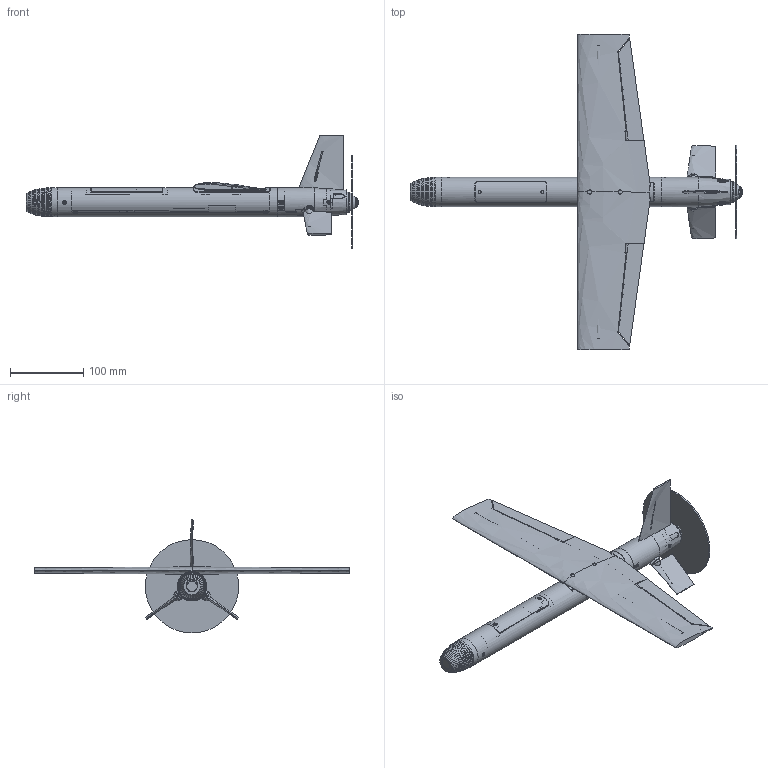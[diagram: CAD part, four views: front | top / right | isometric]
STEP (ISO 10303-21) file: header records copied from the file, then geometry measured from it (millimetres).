
FILE_DESCRIPTION(('SkyG Speed 90B - revision C6B-6 - 2026-10-08','C6B-assembly'),'2;1');
FILE_NAME('C6B-assembly_C6B-6','2026-10-08T12:31:01',('Author'),( 'Open CASCADE'),'Open CASCADE STEP processor 7.9','Open CASCADE 7.9' ,'Unknown');
FILE_SCHEMA(('AUTOMOTIVE_DESIGN { 1 0 10303 214 1 1 1 1 }'));
Length unit declared in the file: millimetre
Products named in the file (148): C4; N0M-nose-micro-camera; N0M-vtx-shelf; F3-tail-module; WR-wing-right; WL-wing-left; AR-aileron-right; AL-aileron-left; SR-stabilator-right; SL-stabilator-left; FN-fin; AHR-aileron-horn-right; AHL-aileron-horn-left; THR-tail-horn-right; THL-tail-horn-left; TR-equipment-tray; TC-tail-coupler; CW-countersunk-washer; NB1-wing-nut-bar-front; NB2-wing-nut-bar-rear; HL1-hatch-lip-front; HL2-hatch-lip-rear; HF-front-hatch; WF-wing-window-filler; HG-gps-carrier; M1-motor-plate; SP-spinner; ENV-scr_mplate_R; ENV-cw_11; ENV-scr_mplate_L; ENV-cw_12; ENV-motor; ENV-prop_disc; ENV-prop_hub_nut; ENV-battery; ENV-camera_micro19; ENV-cam_screws; ENV-O_o4_camera; ENV-O_o4_screws; ENV-O_o4_module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
Assembly tree (147 placements, depth 2):
  C4
    N0M-nose-micro-camera
    N0M-vtx-shelf
    F3-tail-module
    WR-wing-right
    WL-wing-left
    AR-aileron-right
    AL-aileron-left
    SR-stabilator-right
    SL-stabilator-left
    FN-fin
    AHR-aileron-horn-right
    AHL-aileron-horn-left
    THR-tail-horn-right
    THL-tail-horn-left
    TR-equipment-tray
    TC-tail-coupler
    CW-countersunk-washer
    NB1-wing-nut-bar-front
    NB2-wing-nut-bar-rear
    HL1-hatch-lip-front
    HL2-hatch-lip-rear
    HF-front-hatch
    WF-wing-window-filler
    HG-gps-carrier
    M1-motor-plate
    SP-spinner
    ENV-scr_mplate_R
    ENV-cw_11
    ENV-scr_mplate_L
    ENV-cw_12
    ENV-motor
    ENV-prop_disc
    ENV-prop_hub_nut
    ENV-battery
    ENV-camera_micro19
    ENV-cam_screws
    ENV-O_o4_camera
    ENV-O_o4_screws
    ENV-O_o4_module
    ENV-vtx
    ENV-gnss
    ENV-flight_controller
    ENV-ail_servo_arm
    ENV-ail_rod_R
    ENV-ail_link_R
    ENV-ail_rod_L
    ENV-ail_link_L
    ENV-ail_spine_R
    ENV-ail_spine_L
    ENV-receiver
    ENV-ant_elrs
    ENV-ant_vtx
    ENV-O_ant_video
    ENV-aileron_servo
    ENV-tail_servo_L
    ENV-tail_servo_R
    ENV-esc
    ENV-tail_servo_arm_R
    ENV-tail_link_R
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Bounding box: 452.19 x 430 x 155.1 mm (x, y, z)
Volume: 473404.3 mm3; surface area: 341637.7 mm2
Topology: 184 solids, 186 shells, 2591 faces, 6603 edges, 4372 vertices
Faces by surface type: plane 1674, cylinder 521, bspline 217, cone 139, torus 15, sphere 14, revolution 11
Full cylindrical faces by diameter (mm): 0.98 x6, 1.107 x11, 1.2 x22, 1.25 x8, 1.5 x2, 1.6 x32, 1.9 x1, 2 x30, 2.1 x2, 2.2 x18, 2.5 x2, 2.6 x6, 2.842 x6, 3 x13, 3.05 x2, 3.2 x4, 3.8 x2, 3.9 x3, 3.94 x3, 4 x4, 4.9 x12, 5 x10, 5.2 x3, 5.5 x4, 5.6 x3, 6 x3, 9 x1, 9.2 x1, 12.7 x1, 13 x2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
Entity records: 411719 total; most frequent: CARTESIAN_POINT 285497, DIRECTION 19895, ORIENTED_EDGE 13170, PCURVE 13170, DEFINITIONAL_REPRESENTATION 13170, LINE 9003, VECTOR 9003, EDGE_CURVE 6589
